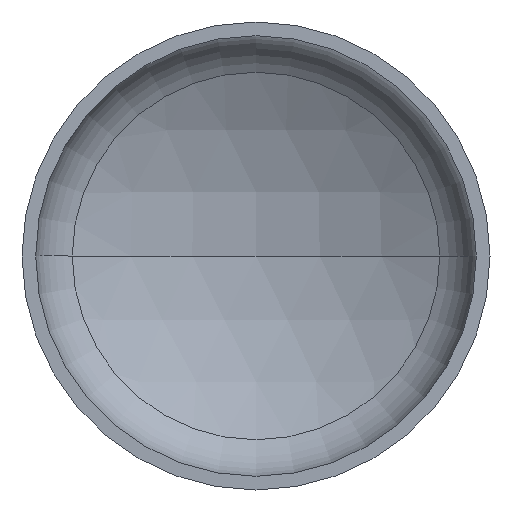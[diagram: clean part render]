
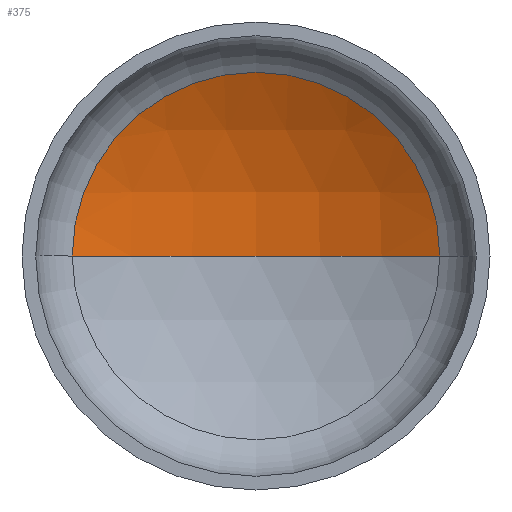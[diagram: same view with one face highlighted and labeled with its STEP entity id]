
A CAD part, front view. The second image highlights one B-rep face of the part: STEP entity #375.
In plain terms, the highlighted spherical face has radius 2400 mm.
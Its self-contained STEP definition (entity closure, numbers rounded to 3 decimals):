
#1 = AXIS2_PLACEMENT_3D ( 'NONE', #46, #240, #150 ) ;
#5 = CARTESIAN_POINT ( 'NONE',  ( 0., 500.806, 0. ) ) ;
#6 = VERTEX_POINT ( 'NONE', #362 ) ;
#17 = EDGE_LOOP ( 'NONE', ( #101, #43, #26 ) ) ;
#26 = ORIENTED_EDGE ( 'NONE', *, *, #90, .T. ) ;
#35 = AXIS2_PLACEMENT_3D ( 'NONE', #279, #242, #192 ) ;
#36 = AXIS2_PLACEMENT_3D ( 'NONE', #5, #350, #153 ) ;
#43 = ORIENTED_EDGE ( 'NONE', *, *, #95, .T. ) ;
#46 = CARTESIAN_POINT ( 'NONE',  ( 0., -1590.354, 0. ) ) ;
#64 = VERTEX_POINT ( 'NONE', #295 ) ;
#90 = EDGE_CURVE ( 'NONE', #133, #6, #248, .T. ) ;
#95 = EDGE_CURVE ( 'NONE', #64, #133, #181, .T. ) ;
#101 = ORIENTED_EDGE ( 'NONE', *, *, #348, .F. ) ;
#133 = VERTEX_POINT ( 'NONE', #203 ) ;
#138 = DIRECTION ( 'NONE',  ( 0., 0., -1. ) ) ;
#150 = DIRECTION ( 'NONE',  ( 1., 0., 0. ) ) ;
#153 = DIRECTION ( 'NONE',  ( 1., 0., 0. ) ) ;
#181 = CIRCLE ( 'NONE', #35, 2400. ) ;
#192 = DIRECTION ( 'NONE',  ( -1., 0., 0. ) ) ;
#203 = CARTESIAN_POINT ( 'NONE',  ( 1177.732, 500.806, 0. ) ) ;
#240 = DIRECTION ( 'NONE',  ( 0., 0., 1. ) ) ;
#242 = DIRECTION ( 'NONE',  ( 0., 0., -1. ) ) ;
#248 = CIRCLE ( 'NONE', #36, 1177.732 ) ;
#279 = CARTESIAN_POINT ( 'NONE',  ( 0., -1590.354, 0. ) ) ;
#295 = CARTESIAN_POINT ( 'NONE',  ( 0., 809.646, 0. ) ) ;
#336 = DIRECTION ( 'NONE',  ( -1., 0., 0. ) ) ;
#345 = AXIS2_PLACEMENT_3D ( 'NONE', #382, #138, #336 ) ;
#348 = EDGE_CURVE ( 'NONE', #64, #6, #393, .T. ) ;
#350 = DIRECTION ( 'NONE',  ( 0., -1., 0. ) ) ;
#362 = CARTESIAN_POINT ( 'NONE',  ( -1177.732, 500.806, 0. ) ) ;
#375 = ADVANCED_FACE ( 'NONE', ( #387 ), #377, .F. ) ;
#377 = SPHERICAL_SURFACE ( 'NONE', #345, 2400. ) ;
#382 = CARTESIAN_POINT ( 'NONE',  ( 0., -1590.354, 0. ) ) ;
#387 = FACE_OUTER_BOUND ( 'NONE', #17, .T. ) ;
#393 = CIRCLE ( 'NONE', #1, 2400. ) ;
